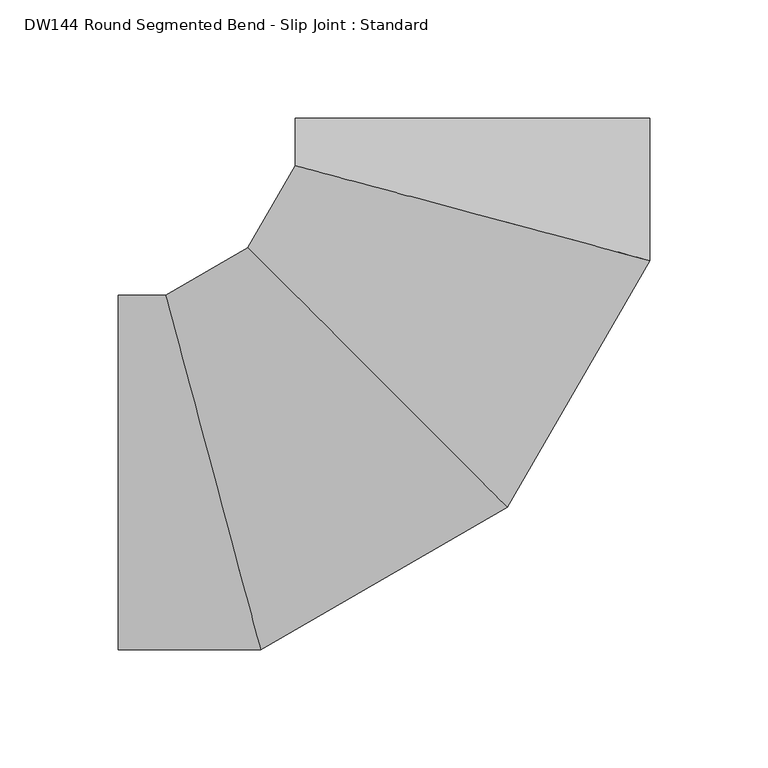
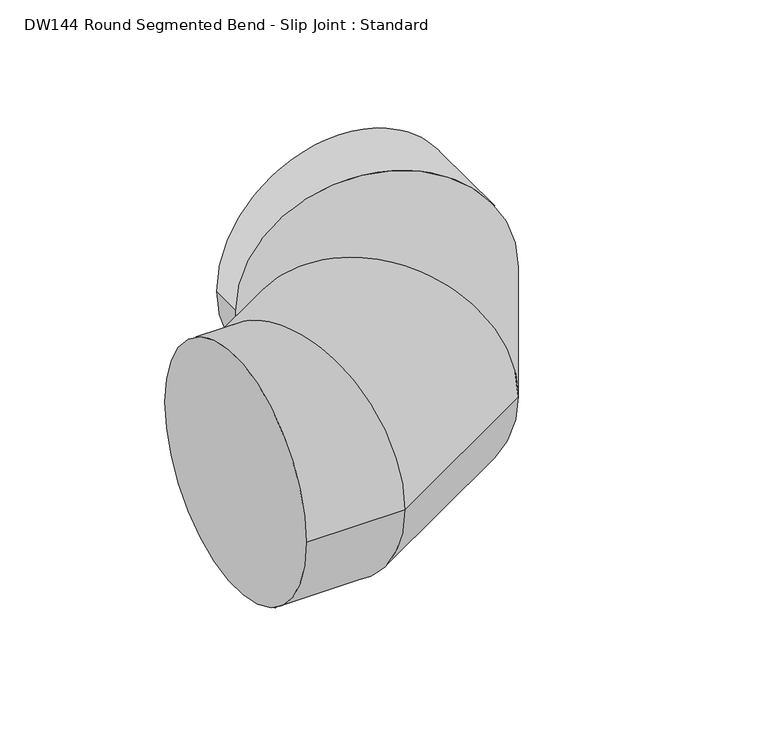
"""IFC4 building model written with IfcOpenShell, lengths in millimetres: duct fitting geometry, DW144 Round Segmented Bend - Slip Joint : Standard."""

from ifc_helpers import new_model, si_unit, frame, origin, place, context, project, spatial, circle_curve, ellipse_curve, source, transform, mapped, element, save
from ifc_brep_helpers import plane_surface, cylinder_surface, advanced_brep


def dw144_round_segmented_bend_slip_joint_standard_478535ff(model_context):
    return source(origin(), model_context, "Body", "AdvancedBrep", [
        advanced_brep(
        [(-150.0, -75.0, 0.0), (-150.0, 75.0, 0.0), (-89.7114317, -75.0, 0.0), (-129.9038106, 75.0, 0.0), (14.7114317, -14.7114317, 0.0), (-95.0961894, 95.0961894, 0.0), (75.0, 89.7114317, 0.0), (-75.0, 129.9038106, 0.0), (75.0, 150.0, 0.0), (-75.0, 150.0, 0.0)],
        [
            (0, 1, circle_curve(frame((-150.0, 0.0, 0.0), z_axis=(-1.0, 0.0, 0.0), x_axis=(0.0, 1.0, 0.0)), 75.0)),
            (1, 0, circle_curve(frame((-150.0, 0.0, 0.0), z_axis=(-1.0, 0.0, 0.0), x_axis=(0.0, 1.0, 0.0)), 75.0)),
            (0, 2),
            (2, 3, ellipse_curve(frame((-109.8076211, 0.0, 0.0), z_axis=(-0.9659258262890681, -0.258819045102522, 0.0), x_axis=(-0.25881904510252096, 0.9659258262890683, 0.0)), 77.6457135, 75.0)),
            (3, 1),
            (3, 2, ellipse_curve(frame((-109.8076211, 0.0, 0.0), z_axis=(-0.9659258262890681, -0.258819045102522, 0.0), x_axis=(-0.25881904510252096, 0.9659258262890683, 0.0)), 77.6457135, 75.0)),
            (2, 4),
            (4, 5, ellipse_curve(frame((-40.1923789, 40.1923789, 0.0), z_axis=(-0.707106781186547, -0.7071067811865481, 0.0), x_axis=(-0.7071067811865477, 0.7071067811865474, 0.0)), 77.6457135, 75.0)),
            (5, 3),
            (5, 4, ellipse_curve(frame((-40.1923789, 40.1923789, 0.0), z_axis=(-0.707106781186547, -0.7071067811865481, 0.0), x_axis=(-0.7071067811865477, 0.7071067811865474, 0.0)), 77.6457135, 75.0)),
            (4, 6),
            (6, 7, ellipse_curve(frame((0.0, 109.8076211, 0.0), z_axis=(-0.25881904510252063, -0.9659258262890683, 0.0), x_axis=(-0.9659258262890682, 0.25881904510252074, 0.0)), 77.6457135, 75.0)),
            (7, 5),
            (7, 6, ellipse_curve(frame((0.0, 109.8076211, 0.0), z_axis=(-0.25881904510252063, -0.9659258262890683, 0.0), x_axis=(-0.9659258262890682, 0.25881904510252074, 0.0)), 77.6457135, 75.0)),
            (8, 9, circle_curve(frame((0.0, 150.0, 0.0), z_axis=(0.0, 1.0, 0.0), x_axis=(-1.0, 0.0, 0.0)), 75.0)),
            (9, 8, circle_curve(frame((0.0, 150.0, 0.0), z_axis=(0.0, 1.0, 0.0), x_axis=(-1.0, 0.0, 0.0)), 75.0)),
            (6, 8),
            (9, 7),
        ],
        [
            plane_surface(frame((-150.0, 0.0, 0.0), z_axis=(-1.0, 0.0, 0.0), x_axis=(0.0, 0.0, 1.0))),
            cylinder_surface(frame((-150.0, 0.0, 0.0), z_axis=(-1.0, 0.0, 0.0), x_axis=(0.0, 1.0, 0.0)), 75.0),
            cylinder_surface(frame((-109.8076211, 0.0, 0.0), z_axis=(-0.866025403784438, -0.500000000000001, 0.0), x_axis=(-0.500000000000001, 0.866025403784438, 0.0)), 75.0),
            cylinder_surface(frame((-40.1923789, 40.1923789, 0.0), z_axis=(-0.4999999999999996, -0.8660254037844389, 0.0), x_axis=(-0.8660254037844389, 0.4999999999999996, 0.0)), 75.0),
            plane_surface(frame((0.0, 150.0, 0.0), z_axis=(0.0, 1.0, 0.0), x_axis=(0.0, 0.0, 1.0))),
            cylinder_surface(frame((0.0, 109.8076211, 0.0), z_axis=(0.0, -1.0, 0.0), x_axis=(-1.0, 0.0, 0.0)), 75.0),
        ],
        [
            (0, [[1, 2]]),
            (1, [[-1, 3, 4, 5]]),
            (1, [[-2, -5, 6, -3]]),
            (2, [[-4, 7, 8, 9]]),
            (2, [[-6, -9, 10, -7]]),
            (3, [[-8, 11, 12, 13]]),
            (3, [[-10, -13, 14, -11]]),
            (4, [[15, 16]]),
            (5, [[-12, 17, -16, 18]]),
            (5, [[-14, -18, -15, -17]]),
        ],
    ),
    ])


if __name__ == "__main__":
    model = new_model("IFC4")
    model_context = context("Model", 3, world=origin())
    ifc_project = project(units=[si_unit("LENGTHUNIT", "METRE", prefix="MILLI")], contexts=[model_context])
    site = spatial("IfcSite", under=ifc_project)
    building = spatial("IfcBuilding", under=site)
    placement = place(None, origin())
    dw144_round_segmented_bend_slip_joint_standard_shape = dw144_round_segmented_bend_slip_joint_standard_478535ff(model_context)
    element("IfcDuctFitting", 1, ObjectType="DW144 Round Segmented Bend - Slip Joint : Standard", at=placement, inside=building, context=model_context, shape_type="MappedRepresentation", body=[
        mapped(dw144_round_segmented_bend_slip_joint_standard_shape, transform((0.0, 0.0, 0.0), x_axis=(1.0, 0.0, 0.0), y_axis=(0.0, 1.0, 0.0), z_axis=(0.0, 0.0, 1.0))),
    ])
    save(model, "model.ifc")
